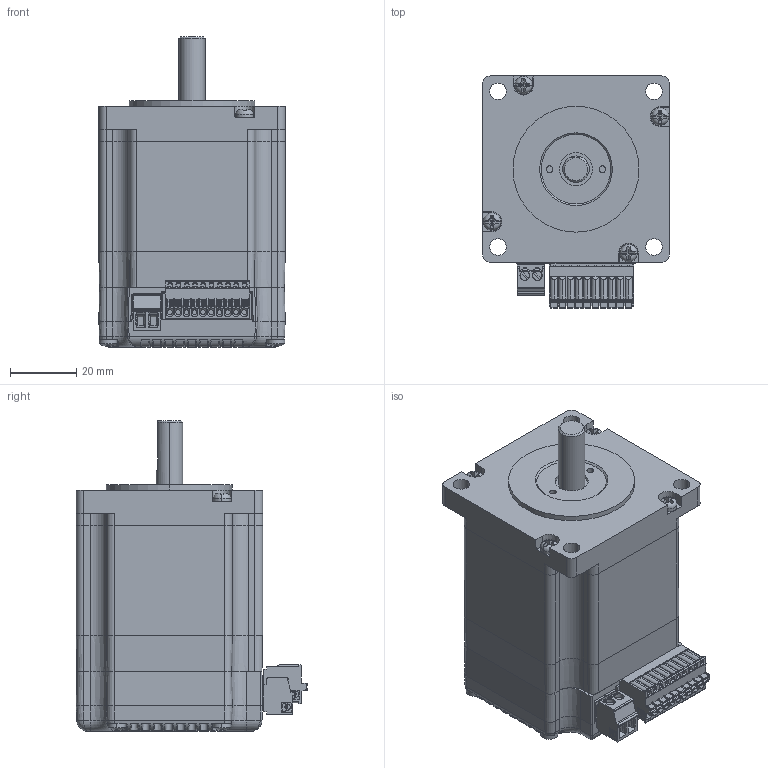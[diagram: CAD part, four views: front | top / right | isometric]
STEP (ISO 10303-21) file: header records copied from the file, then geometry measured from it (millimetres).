
FILE_DESCRIPTION (( 'STEP AP214' ), '1' );
FILE_NAME ('IG57E(T)(V)12.STEP', '2022-12-23T02:28:27', ( '' ), ( '' ), 'SwSTEP 2.0', 'SolidWorks 2022', '' );
FILE_SCHEMA (( 'AUTOMOTIVE_DESIGN' ));
Length unit declared in the file: millimetre
Products named in the file (5): 傷赽脣芛; 3.81x2p-GR-脣芛; IG57驱动器; IG57开环电机_装配体用; IG57E(T)(V)12
Assembly tree (4 placements, depth 2):
  IG57E(T)(V)12
    IG57开环电机_装配体用
    IG57驱动器
    傷赽脣芛
    3.81x2p-GR-脣芛
Bounding box: 56.4 x 70.1 x 94 mm (x, y, z)
Volume: 186943.4 mm3; surface area: 52427.9 mm2
Topology: 5 solids, 5 shells, 5004 faces, 13522 edges, 8641 vertices
Faces by surface type: plane 2962, cylinder 1227, bspline 410, cone 221, torus 126, sphere 58
Entity records: 229112 total; most frequent: CARTESIAN_POINT 58518, ORIENTED_EDGE 26876, DIRECTION 23905, EDGE_CURVE 13438, VECTOR 9107, LINE 9107, VERTEX_POINT 8637, AXIS2_PLACEMENT_3D 7399
